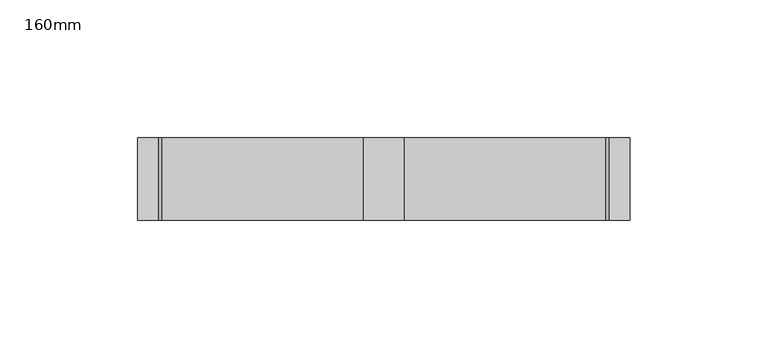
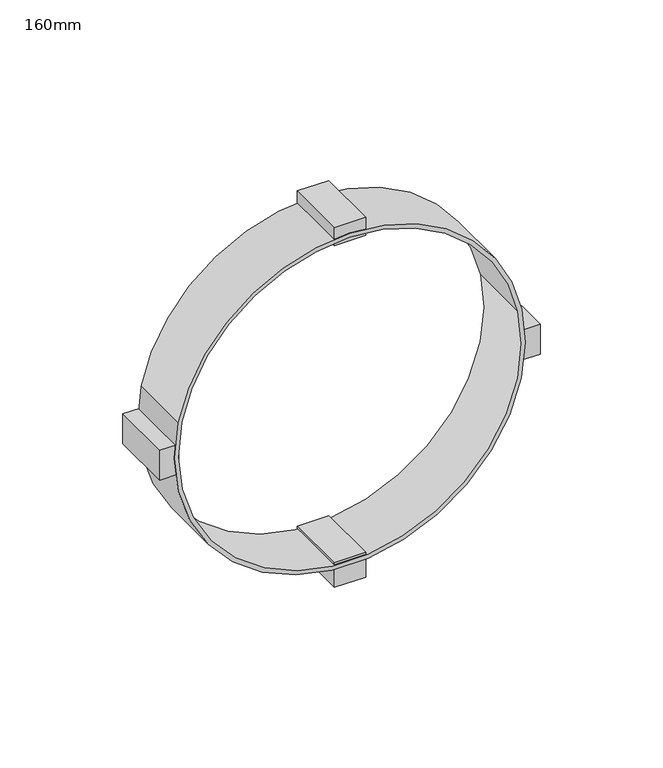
"""IFC4 building model written with IfcOpenShell, lengths in millimetres: pipe fitting geometry, AmancoWavin_Accesoriosdetubería_AS+_Soporte : 160mm."""

from ifc_helpers import new_model, si_unit, point, frame, frame_2d, origin, place, context, project, spatial, polyline, circle_curve, trimmed, segment, composite_curve, outline, extrude, source, transform, mapped, element, save


def pipe_fitting_160mm_c2188202(model_context):
    return source(origin(), model_context, "Body", "SweptSolid", [
        extrude(outline(composite_curve([segment(trimmed(circle_curve(frame_2d((1.5, 0.0)), 82.5), [point((18.0359457, 80.8258158))], [point((18.0359457, -80.8258158))], False, "CARTESIAN"), True, "CONTINUOUS"), segment(trimmed(circle_curve(frame_2d((1.5, 0.0)), 82.5), [point((18.0359457, -80.8258158))], [point((18.0359457, 80.8258158))], False, "CARTESIAN"), True, "CONTINUOUS")], self_intersect=False), holes=[composite_curve([segment(trimmed(circle_curve(frame_2d((1.5, 0.0)), 80.5), [point((17.6350743, -78.8664021))], [point((17.6350743, 78.8664021))], True, "CARTESIAN"), True, "CONTINUOUS"), segment(trimmed(circle_curve(frame_2d((1.5, 0.0)), 80.5), [point((17.6350743, 78.8664021))], [point((17.6350743, -78.8664021))], True, "CARTESIAN"), True, "CONTINUOUS")], self_intersect=False)]), frame((0.0, -15.0, 0.0), z_axis=(0.0, 1.0, 0.0), x_axis=(0.0, 0.0, 1.0)), (0.0, 0.0, 1.0), 30.0),
        extrude(outline(polyline([(89.5, -15.0), (80.5, -15.0), (80.5, 15.0), (89.5, 15.0), (89.5, -15.0)])), frame((0.0, 0.0, -7.3902676), z_axis=(0.0, 0.0, 1.0), x_axis=(1.0, 0.0, 0.0)), (0.0, 0.0, 1.0), 14.7805353),
        extrude(outline(polyline([(-80.5, -15.0), (-89.5, -15.0), (-89.5, 15.0), (-80.5, 15.0), (-80.5, -15.0)])), frame((0.0, 0.0, -7.3902676), z_axis=(0.0, 0.0, 1.0), x_axis=(1.0, 0.0, 0.0)), (0.0, 0.0, 1.0), 14.7805353),
        extrude(outline(polyline([(7.3902676, -15.0), (-7.3902676, -15.0), (-7.3902676, 15.0), (7.3902676, 15.0), (7.3902676, -15.0)])), frame((0.0, 0.0, -89.5), z_axis=(0.0, 0.0, 1.0), x_axis=(1.0, 0.0, 0.0)), (0.0, 0.0, 1.0), 12.2619048),
        extrude(outline(polyline([(7.3902676, -15.0), (-7.3902676, -15.0), (-7.3902676, 15.0), (7.3902676, 15.0), (7.3902676, -15.0)])), frame((0.0, 0.0, 80.5), z_axis=(0.0, 0.0, 1.0), x_axis=(1.0, 0.0, 0.0)), (0.0, 0.0, 1.0), 9.0),
    ])


if __name__ == "__main__":
    model = new_model("IFC4")
    model_context = context("Model", 3, world=origin())
    ifc_project = project(units=[si_unit("LENGTHUNIT", "METRE", prefix="MILLI")], contexts=[model_context])
    site = spatial("IfcSite", under=ifc_project)
    building = spatial("IfcBuilding", under=site)
    placement = place(None, origin())
    pipe_fitting_160mm_shape = pipe_fitting_160mm_c2188202(model_context)
    element("IfcPipeFitting", 1, ObjectType="AmancoWavin_Accesoriosdetubería_AS+_Soporte : 160mm", at=placement, inside=building, context=model_context, shape_type="MappedRepresentation", body=[
        mapped(pipe_fitting_160mm_shape, transform((0.0, 0.0, 0.0), x_axis=(1.0, 0.0, 0.0), y_axis=(0.0, 1.0, 0.0), z_axis=(0.0, 0.0, 1.0))),
    ])
    save(model, "model.ifc")
